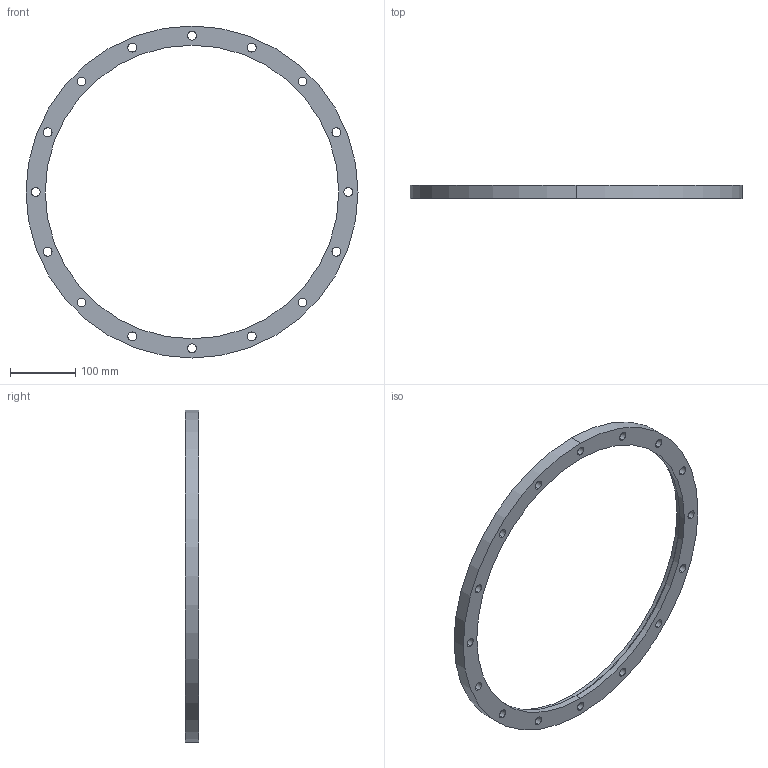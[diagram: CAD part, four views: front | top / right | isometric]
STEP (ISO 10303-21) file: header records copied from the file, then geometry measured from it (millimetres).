
FILE_DESCRIPTION (( 'STEP AP214' ), '1' );
FILE_NAME ('W5UEF400.STEP', '2021-02-02T11:52:40', ( '' ), ( '' ), 'SwSTEP 2.0', 'SolidWorks 2020', '' );
FILE_SCHEMA (( 'AUTOMOTIVE_DESIGN' ));
Length unit declared in the file: millimetre
Products named in the file (1): W5UEF400
Bounding box: 510 x 20 x 510 mm (x, y, z)
Volume: 792576.4 mm3; surface area: 156203.8 mm2
Topology: 1 solids, 1 shells, 42 faces, 116 edges, 76 vertices
Faces by surface type: cylinder 38, torus 2, plane 2
Entity records: 1488 total; most frequent: DIRECTION 280, CARTESIAN_POINT 235, ORIENTED_EDGE 232, AXIS2_PLACEMENT_3D 121, EDGE_CURVE 116, CIRCLE 78, EDGE_LOOP 76, VERTEX_POINT 76
